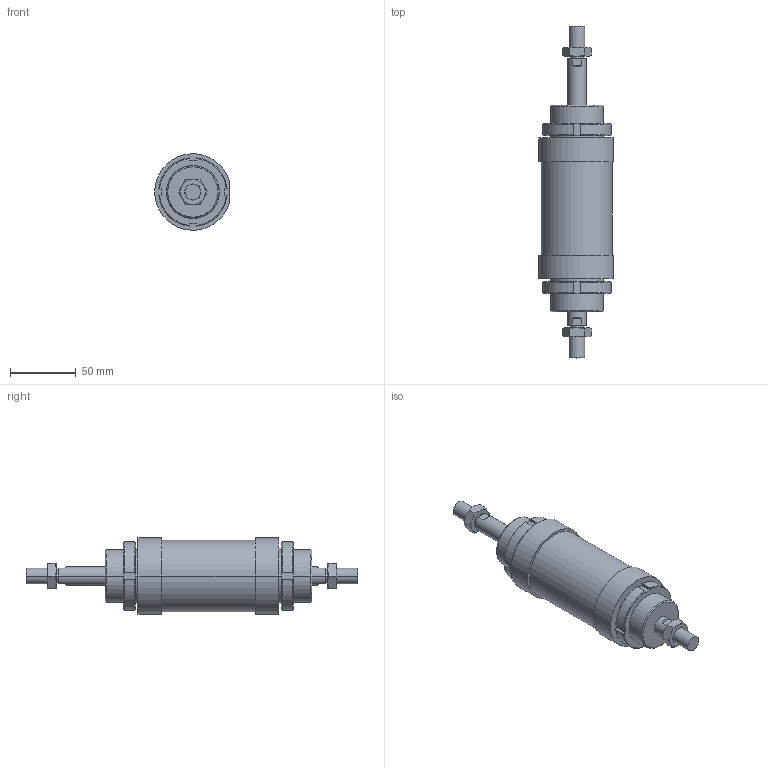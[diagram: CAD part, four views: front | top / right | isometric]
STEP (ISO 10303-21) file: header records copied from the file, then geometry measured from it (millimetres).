
FILE_DESCRIPTION((''),'2;1');
FILE_NAME('I:\DOC-EDP\Lib-3d\1200\CILINDRI\1262\1262_50_0025.stp','2003-04-02T19:14:58',('maffial1'),(''),'Autodesk Inventor (R) 6.0','Autodesk Inventor (R) 6.0','');
FILE_SCHEMA(('AUTOMOTIVE_DESIGN { 1 0 10303 214 1 1 1 1 }'));
Length unit declared in the file: millimetre
Products named in the file (5): 1262_50_0025; S1262_50_25; C1262_50_25; 1200_50_05; 1200_50_06
Assembly tree (6 placements, depth 2):
  1262_50_0025
    S1262_50_25
    C1262_50_25
    1200_50_05  x2
    1200_50_06  x2
Bounding box: 56.6 x 252 x 57.85 mm (x, y, z)
Volume: 348725.2 mm3; surface area: 60121.9 mm2
Topology: 6 solids, 6 shells, 182 faces, 424 edges, 264 vertices
Faces by surface type: plane 66, cone 56, cylinder 30, bspline 30
Entity records: 3737 total; most frequent: CARTESIAN_POINT 969, DIRECTION 572, ORIENTED_EDGE 548, EDGE_CURVE 274, AXIS2_PLACEMENT_3D 227, VERTEX_POINT 172, EDGE_LOOP 136, FACE_OUTER_BOUND 120
